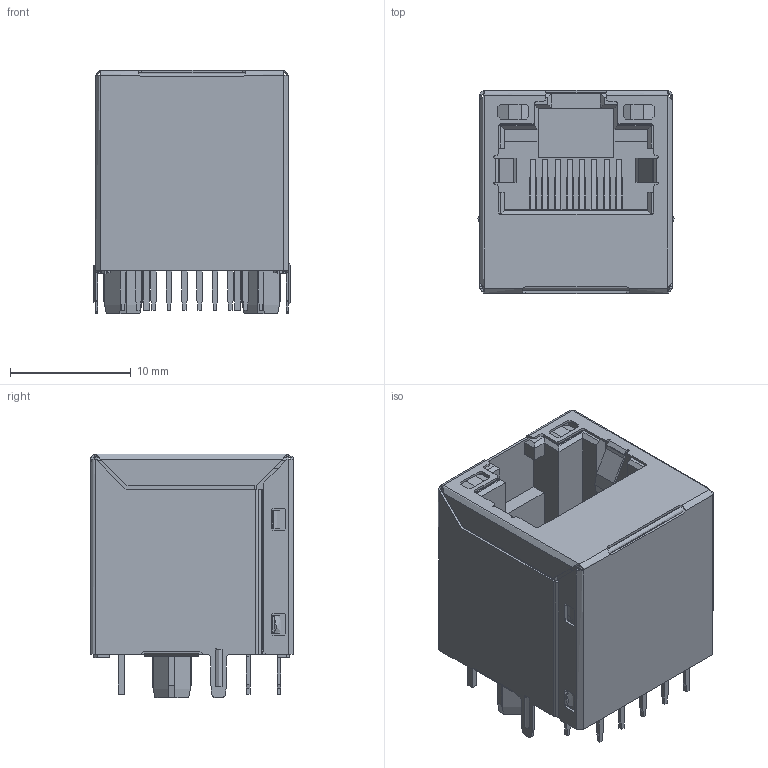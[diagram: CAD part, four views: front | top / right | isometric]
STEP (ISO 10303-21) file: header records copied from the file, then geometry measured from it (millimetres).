
FILE_DESCRIPTION (( 'STEP AP214' ), '1' );
FILE_NAME ('JXD2-0015NL.STEP', '2017-05-11T01:31:42', ( '' ), ( '' ), 'SwSTEP 2.0', 'SolidWorks 2015', '' );
FILE_SCHEMA (( 'AUTOMOTIVE_DESIGN' ));
Length unit declared in the file: millimetre
Products named in the file (1): JXD2-0015NL
Bounding box: 16.3 x 16.82 x 20.2 mm (x, y, z)
Topology: 0 solids, 5 shells, 1571 faces, 4356 edges, 2788 vertices
Faces by surface type: plane 1216, cylinder 323, bspline 19, sphere 12, torus 1
Entity records: 67119 total; most frequent: CARTESIAN_POINT 14765, ORIENTED_EDGE 8657, DIRECTION 6571, EDGE_CURVE 4356, LINE 3343, VECTOR 3343, VERTEX_POINT 2788, EDGE_LOOP 1684
